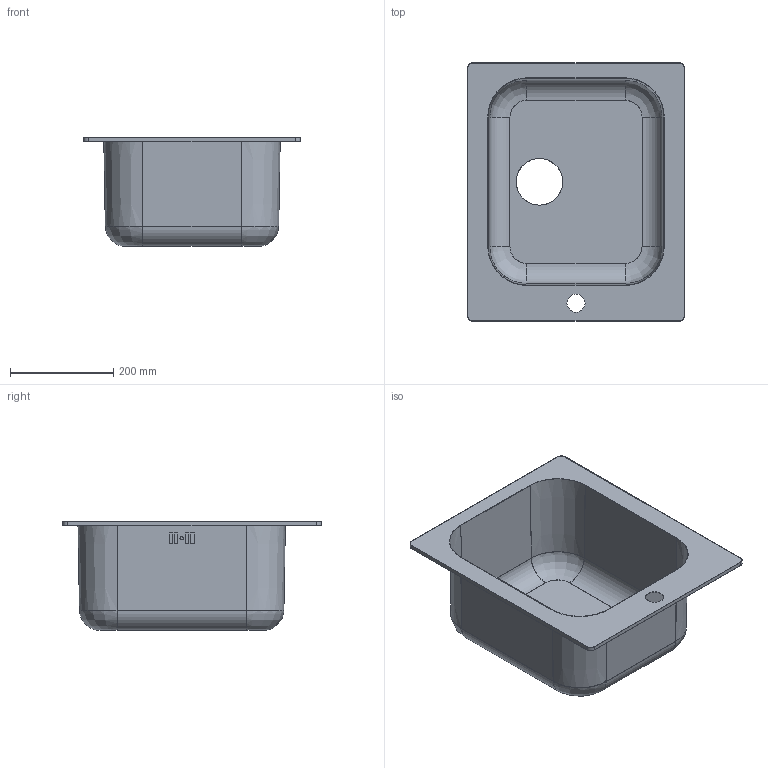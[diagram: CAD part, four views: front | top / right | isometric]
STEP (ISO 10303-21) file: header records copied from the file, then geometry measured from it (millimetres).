
FILE_DESCRIPTION(('CATIA V5 STEP Exchange'),'2;1');
FILE_NAME('C:\Users\linop\Desktop\VS34-P3.stp','2018-05-28T14:49:56+00:00',('none'),('none'),'CATIA Version 5-6 Release 2014','CATIA V5 STEP AP203','none');
FILE_SCHEMA(('CONFIG_CONTROL_DESIGN'));
Length unit declared in the file: millimetre
Products named in the file (1): VS34-P3
Bounding box: 420 x 500 x 210.7 mm (x, y, z)
Volume: 328889.8 mm3; surface area: 943298.8 mm2
Topology: 2 solids, 2 shells, 100 faces, 266 edges, 172 vertices
Faces by surface type: cylinder 42, plane 42, cone 8, revolution 8
Entity records: 3232 total; most frequent: CARTESIAN_POINT 790, ORIENTED_EDGE 532, DIRECTION 402, EDGE_CURVE 266, VERTEX_POINT 172, VECTOR 158, LINE 158, AXIS2_PLACEMENT_3D 154
